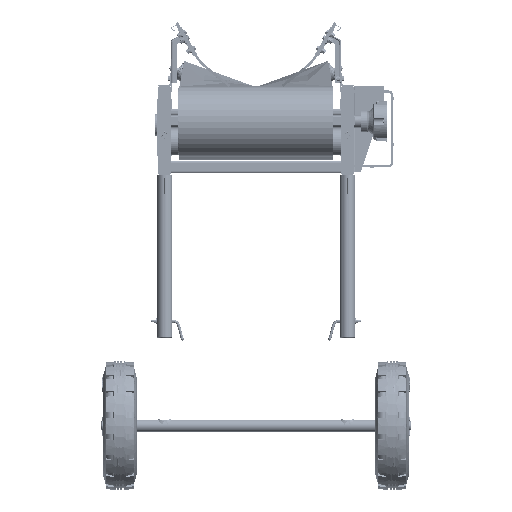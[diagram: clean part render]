
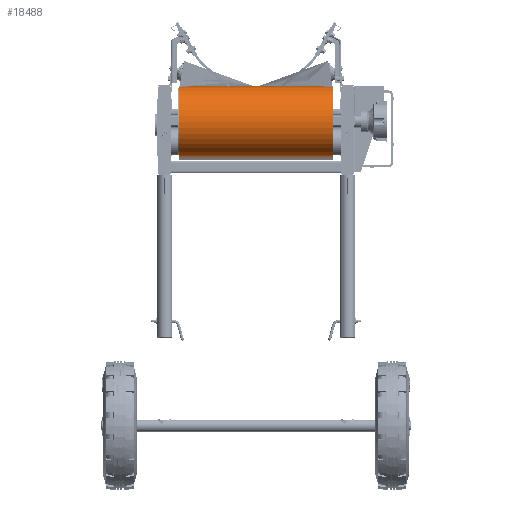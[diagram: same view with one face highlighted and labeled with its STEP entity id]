
A CAD part, front view. The second image highlights one B-rep face of the part: STEP entity #18488.
In plain terms, the highlighted cylindrical face has radius 116 mm (diameter 232 mm), a partial arc.
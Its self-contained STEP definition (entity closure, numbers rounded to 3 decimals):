
#8864=B_SPLINE_CURVE_WITH_KNOTS('',3,(#132916,#132917,#132918,#132919,#132920,
#132921,#132922,#132923,#132924,#132925,#132926,#132927,#132928,#132929,
#132930,#132931,#132932,#132933),.UNSPECIFIED.,.F.,.F.,(4,2,2,1,1,1,1,1,
1,2,2,4),(0.,0.25,0.375,0.438,0.469,
0.484,0.492,0.496,0.498,
0.499,0.5,1.),.UNSPECIFIED.);
#8865=B_SPLINE_CURVE_WITH_KNOTS('',3,(#132937,#132938,#132939,#132940,#132941,
#132942,#132943,#132944,#132945,#132946,#132947,#132948,#132949,#132950,
#132951,#132952,#132953,#132954,#132955),.UNSPECIFIED.,.F.,.F.,(4,2,2,2,
1,1,1,1,1,2,2,4),(0.,0.25,0.375,0.437,
0.469,0.484,0.492,0.496,
0.498,0.499,0.5,1.),.UNSPECIFIED.);
#18488=ADVANCED_FACE('',(#23083),#20401,.T.);
#20401=CYLINDRICAL_SURFACE('',#77153,116.);
#23083=FACE_OUTER_BOUND('',#26798,.T.);
#26798=EDGE_LOOP('',(#48178,#48179,#48180,#48181,#48182,#48183));
#30630=LINE('',#132915,#35071);
#30631=LINE('',#132935,#35072);
#35071=VECTOR('',#89067,1.);
#35072=VECTOR('',#89068,1.);
#48178=ORIENTED_EDGE('',*,*,#67596,.T.);
#48179=ORIENTED_EDGE('',*,*,#67580,.F.);
#48180=ORIENTED_EDGE('',*,*,#67597,.T.);
#48181=ORIENTED_EDGE('',*,*,#67598,.T.);
#48182=ORIENTED_EDGE('',*,*,#67599,.T.);
#48183=ORIENTED_EDGE('',*,*,#67563,.F.);
#59576=VERTEX_POINT('',#132823);
#59577=VERTEX_POINT('',#132825);
#59588=VERTEX_POINT('',#132854);
#59589=VERTEX_POINT('',#132856);
#59599=VERTEX_POINT('',#132934);
#59600=VERTEX_POINT('',#132936);
#67563=EDGE_CURVE('',#59576,#59577,#72770,.T.);
#67580=EDGE_CURVE('',#59588,#59589,#72779,.T.);
#67596=EDGE_CURVE('',#59576,#59589,#30630,.T.);
#67597=EDGE_CURVE('',#59588,#59599,#8864,.T.);
#67598=EDGE_CURVE('',#59599,#59600,#30631,.T.);
#67599=EDGE_CURVE('',#59600,#59577,#8865,.T.);
#72770=CIRCLE('',#77133,116.);
#72779=CIRCLE('',#77144,116.);
#77133=AXIS2_PLACEMENT_3D('',#132824,#89010,#89011);
#77144=AXIS2_PLACEMENT_3D('',#132855,#89040,#89041);
#77153=AXIS2_PLACEMENT_3D('',#132956,#89069,#89070);
#89010=DIRECTION('',(1.,0.,0.));
#89011=DIRECTION('',(0.,0.,1.));
#89040=DIRECTION('',(-1.,0.,0.));
#89041=DIRECTION('',(0.,0.,1.));
#89067=DIRECTION('',(-1.,0.,0.));
#89068=DIRECTION('',(1.,0.,0.));
#89069=DIRECTION('',(-1.,0.,0.));
#89070=DIRECTION('',(0.,0.,-1.));
#132823=CARTESIAN_POINT('',(250.,-224.604,-351.432));
#132824=CARTESIAN_POINT('',(250.,-110.,-369.373));
#132825=CARTESIAN_POINT('',(250.,3.644,-392.635));
#132854=CARTESIAN_POINT('',(-250.,3.644,-392.635));
#132855=CARTESIAN_POINT('',(-250.,-110.,-369.373));
#132856=CARTESIAN_POINT('',(-250.,-224.604,-351.432));
#132915=CARTESIAN_POINT('',(0.,-224.604,-351.432));
#132916=CARTESIAN_POINT('',(-250.,3.644,-392.635));
#132917=CARTESIAN_POINT('',(-233.358,3.992,-390.934));
#132918=CARTESIAN_POINT('',(-215.603,4.324,-389.119));
#132919=CARTESIAN_POINT('',(-187.303,4.773,-386.226));
#132920=CARTESIAN_POINT('',(-177.592,4.915,-385.234));
#132921=CARTESIAN_POINT('',(-162.608,5.113,-383.702));
#132922=CARTESIAN_POINT('',(-155.012,5.208,-382.925));
#132923=CARTESIAN_POINT('',(-145.967,5.311,-382.));
#132924=CARTESIAN_POINT('',(-141.399,5.361,-381.534));
#132925=CARTESIAN_POINT('',(-139.104,5.385,-381.299));
#132926=CARTESIAN_POINT('',(-137.953,5.397,-381.181));
#132927=CARTESIAN_POINT('',(-137.378,5.403,-381.122));
#132928=CARTESIAN_POINT('',(-137.13,5.406,-381.097));
#132929=CARTESIAN_POINT('',(-136.966,5.408,-381.08));
#132930=CARTESIAN_POINT('',(-136.851,5.409,-381.068));
#132931=CARTESIAN_POINT('',(-111.465,5.672,-378.473));
#132932=CARTESIAN_POINT('',(-73.344,6.,-374.577));
#132933=CARTESIAN_POINT('',(-22.437,6.,-369.373));
#132934=CARTESIAN_POINT('',(-22.437,6.,-369.373));
#132935=CARTESIAN_POINT('',(0.,6.,-369.373));
#132936=CARTESIAN_POINT('',(22.438,6.,-369.373));
#132937=CARTESIAN_POINT('',(22.438,6.,-369.373));
#132938=CARTESIAN_POINT('',(47.89,6.,-371.975));
#132939=CARTESIAN_POINT('',(70.147,5.914,-374.251));
#132940=CARTESIAN_POINT('',(98.738,5.742,-377.173));
#132941=CARTESIAN_POINT('',(107.469,5.677,-378.066));
#132942=CARTESIAN_POINT('',(119.368,5.577,-379.282));
#132943=CARTESIAN_POINT('',(123.134,5.543,-379.667));
#132944=CARTESIAN_POINT('',(128.484,5.492,-380.213));
#132945=CARTESIAN_POINT('',(131.084,5.467,-380.479));
#132946=CARTESIAN_POINT('',(133.986,5.438,-380.776));
#132947=CARTESIAN_POINT('',(135.405,5.424,-380.921));
#132948=CARTESIAN_POINT('',(136.106,5.417,-380.992));
#132949=CARTESIAN_POINT('',(136.454,5.413,-381.028));
#132950=CARTESIAN_POINT('',(136.603,5.411,-381.043));
#132951=CARTESIAN_POINT('',(136.702,5.41,-381.053));
#132952=CARTESIAN_POINT('',(136.719,5.41,-381.055));
#132953=CARTESIAN_POINT('',(178.982,4.973,-385.375));
#132954=CARTESIAN_POINT('',(216.715,4.34,-389.233));
#132955=CARTESIAN_POINT('',(250.,3.644,-392.635));
#132956=CARTESIAN_POINT('',(0.,-110.,-369.373));
